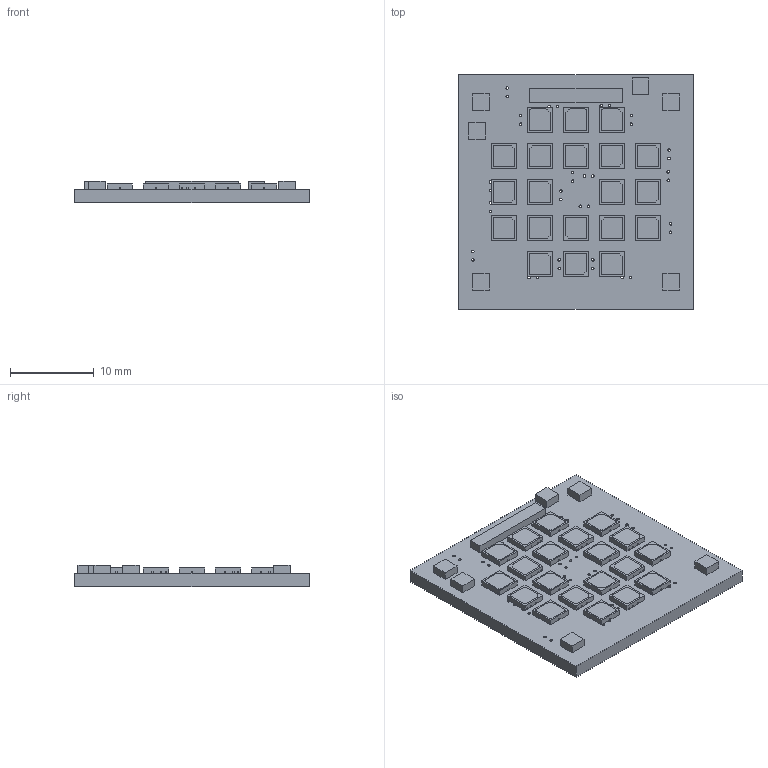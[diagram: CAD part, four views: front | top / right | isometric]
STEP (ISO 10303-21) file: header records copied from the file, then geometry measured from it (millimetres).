
FILE_DESCRIPTION((''),'2;1');
FILE_NAME('V28L23DA4_06072021_10-56-46_ASM','2021-06-07T',('SYSTEM'),(''),'PRO/ENGINEER BY PARAMETRIC TECHNOLOGY CORPORATION, 2009360','PRO/ENGINEER BY PARAMETRIC TECHNOLOGY CORPORATION, 2009360','');
FILE_SCHEMA(('AUTOMOTIVE_DESIGN_CC2 { 1 2 10303 214 -1 1 5 2 }'));
Products named in the file (7): V28L23DA4_06072021_10-56-46; 3030_S_LES; TC_R1MM; FIDUCIAL_R0_5MM; ARKALUMEN_LOGO_11MM; SOLDERPAD2_5X3_8; V28L23DA4_06072021_10-56-46_ASM
Assembly tree (28 placements, depth 2):
  V28L23DA4_06072021_10-56-46_ASM
    V28L23DA4_06072021_10-56-46
    3030_S_LES  x20
    TC_R1MM
    FIDUCIAL_R0_5MM
    ARKALUMEN_LOGO_11MM
    SOLDERPAD2_5X3_8  x4
Bounding box: 28 x 28 x 2.6 mm (x, y, z)
Volume: 1410.6 mm3; surface area: 2474.2 mm2
Topology: 28 solids, 28 shells, 464 faces, 1724 edges, 1536 vertices
Faces by surface type: plane 388, cylinder 76
Entity records: 5784 total; most frequent: CARTESIAN_POINT 864, DIRECTION 813, ORIENTED_EDGE 716, EDGE_CURVE 358, PRESENTATION_STYLE_ASSIGNMENT 310, STYLED_ITEM 310, AXIS2_PLACEMENT_3D 310, CURVE_STYLE 288
